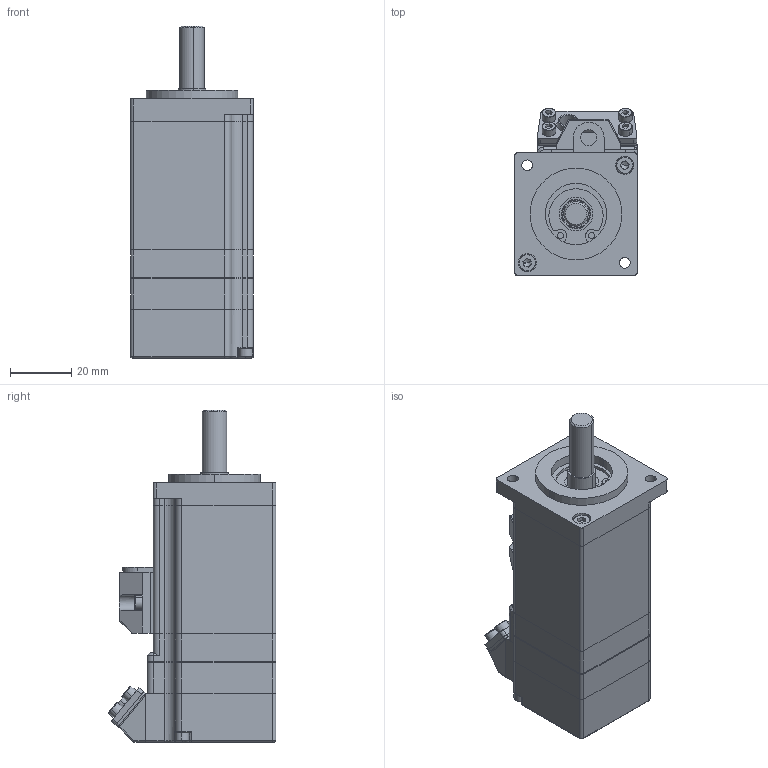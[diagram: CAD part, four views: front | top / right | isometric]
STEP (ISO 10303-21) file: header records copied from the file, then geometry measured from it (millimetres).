
FILE_DESCRIPTION (( 'STEP AP203' ), '1' );
FILE_NAME ('SMH40-530210ENL-1增量旋变三维光轴.STEP', '2020-03-18T05:45:18', ( 'user' ), ( '' ), 'SwSTEP 2.0', 'SolidWorks 2016', '' );
FILE_SCHEMA (( 'CONFIG_CONTROL_DESIGN' ));
Length unit declared in the file: millimetre
Products named in the file (1): SMH40-530210ENL-1增量旋变三维光轴
Bounding box: 40 x 54.65 x 108.4 mm (x, y, z)
Volume: 64439.5 mm3; surface area: 50431.9 mm2
Topology: 24 solids, 24 shells, 999 faces, 2735 edges, 1742 vertices
Faces by surface type: cylinder 416, plane 380, torus 106, cone 52, sphere 43, bspline 2
Entity records: 32251 total; most frequent: CARTESIAN_POINT 6862, DIRECTION 5514, ORIENTED_EDGE 5230, EDGE_CURVE 2615, AXIS2_PLACEMENT_3D 2170, VERTEX_POINT 1680, VECTOR 1174, LINE 1174
